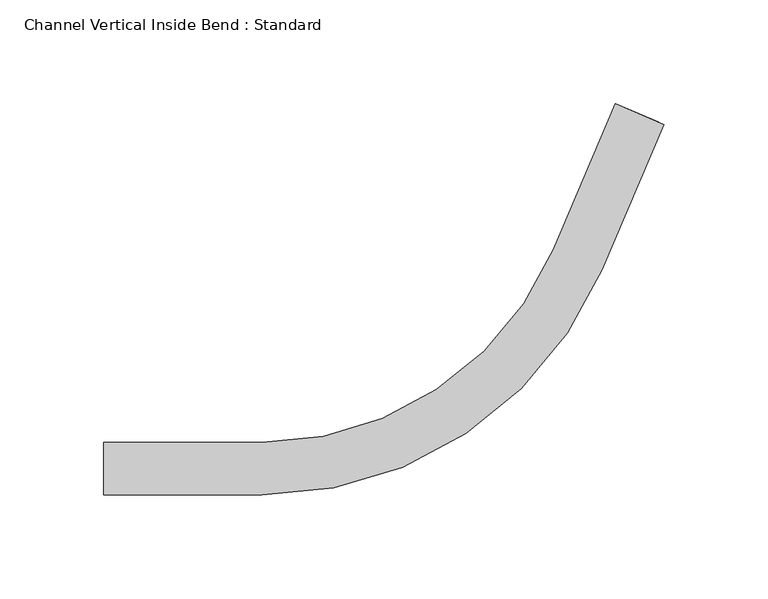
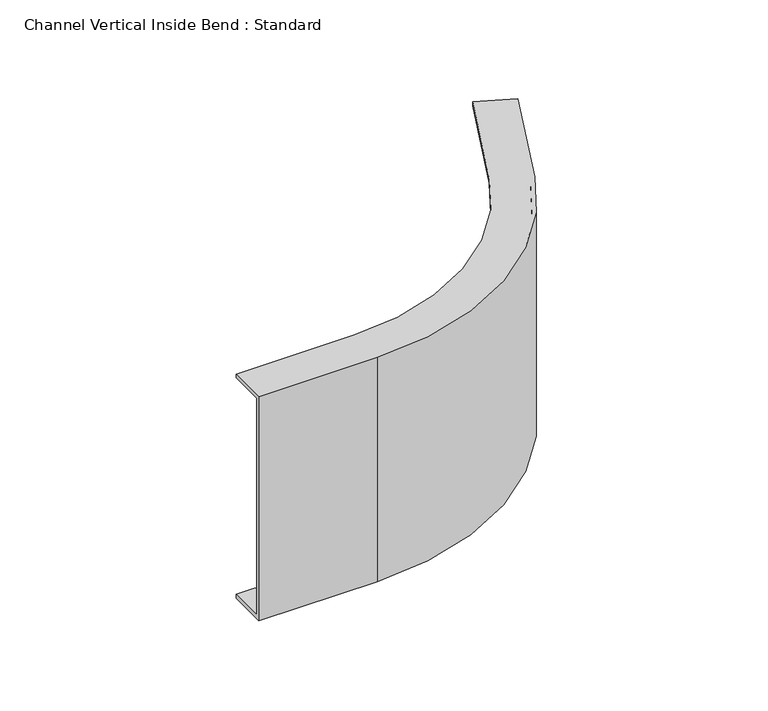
"""IFC4 building model written with IfcOpenShell, lengths in millimetres: cable carrier fitting geometry, Channel Vertical Inside Bend : Standard."""

from ifc_helpers import new_model, si_unit, frame, origin, place, context, project, spatial, polyline, circle_curve, source, transform, mapped, element, save
from ifc_brep_helpers import plane_surface, cylinder_surface, revolved_surface, advanced_brep


def channel_vertical_inside_bend_standard_6782b2f0(model_context):
    return source(origin(), model_context, "Body", "AdvancedBrep", [
        advanced_brep(
        [(-185.4773062, 12.7, 76.2), (-185.4773062, 12.7, 73.66), (-185.4773062, -10.16, 73.66), (-185.4773062, -10.16, -73.66), (-185.4773062, 12.7, -73.66), (-185.4773062, 12.7, -76.2), (-185.4773062, -12.7, -76.2), (-185.4773062, -12.7, 76.2), (60.7813455, 175.6950459, 76.2), (84.1621688, 165.7704752, 76.2), (84.1621688, 165.7704752, -76.2), (60.7813455, 175.6950459, -76.2), (60.7813455, 175.6950459, -73.66), (81.8240865, 166.7629323, -73.66), (81.8240865, 166.7629323, 73.66), (60.7813455, 175.6950459, 73.66), (-109.2773062, -12.7, 76.2), (54.3884568, 95.6280054, 76.2), (31.0076335, 105.552576, 76.2), (-109.2773062, 12.7, 76.2), (-109.2773062, -12.7, -76.2), (-109.2773062, 12.7, -76.2), (31.0076335, 105.552576, -76.2), (54.3884568, 95.6280054, -76.2), (-109.2773062, 12.7, -73.66), (-109.2773062, -10.16, -73.66), (52.0503745, 96.6204624, -73.66), (31.0076335, 105.552576, -73.66), (-109.2773062, -10.16, 73.66), (-109.2773062, 12.7, 73.66), (31.0076335, 105.552576, 73.66), (52.0503745, 96.6204624, 73.66)],
        [
            (0, 1),
            (1, 2),
            (2, 3),
            (3, 4),
            (4, 5),
            (5, 6),
            (6, 7),
            (7, 0),
            (8, 9),
            (9, 10),
            (10, 11),
            (11, 12),
            (12, 13),
            (13, 14),
            (14, 15),
            (15, 8),
            (7, 16),
            (16, 17, circle_curve(frame((-109.2773062, 165.1, 76.2), z_axis=(0.0, 0.0, 1.0), x_axis=(0.0, -1.0, 0.0)), 177.8)),
            (17, 9),
            (8, 18),
            (18, 19, circle_curve(frame((-109.2773062, 165.1, 76.2), z_axis=(0.0, 0.0, -1.0), x_axis=(0.0, -1.0, 0.0)), 152.4)),
            (19, 0),
            (6, 20),
            (20, 16),
            (5, 21),
            (21, 22, circle_curve(frame((-109.2773062, 165.1, -76.2), z_axis=(0.0, 0.0, 1.0), x_axis=(0.0, -1.0, 0.0)), 152.4)),
            (22, 11),
            (10, 23),
            (23, 20, circle_curve(frame((-109.2773062, 165.1, -76.2), z_axis=(0.0, 0.0, -1.0), x_axis=(0.0, -1.0, 0.0)), 177.8)),
            (4, 24),
            (24, 21),
            (3, 25),
            (25, 26, circle_curve(frame((-109.2773062, 165.1, -73.66), z_axis=(0.0, 0.0, 1.0), x_axis=(0.0, -1.0, 0.0)), 175.26)),
            (26, 13),
            (12, 27),
            (27, 24, circle_curve(frame((-109.2773062, 165.1, -73.66), z_axis=(0.0, 0.0, -1.0), x_axis=(0.0, -1.0, 0.0)), 152.4)),
            (2, 28),
            (28, 25),
            (1, 29),
            (29, 30, circle_curve(frame((-109.2773062, 165.1, 73.66), z_axis=(0.0, 0.0, 1.0), x_axis=(0.0, -1.0, 0.0)), 152.4)),
            (30, 15),
            (14, 31),
            (31, 28, circle_curve(frame((-109.2773062, 165.1, 73.66), z_axis=(0.0, 0.0, -1.0), x_axis=(0.0, -1.0, 0.0)), 175.26)),
            (19, 29),
            (23, 17),
            (27, 22),
            (31, 26),
            (18, 30),
        ],
        [
            plane_surface(frame((-185.4773062, 0.0, 0.0), z_axis=(-1.0, 0.0, 0.0), x_axis=(0.0, 0.0, 1.0))),
            plane_surface(frame((72.4717571, 170.7327605, 0.0), z_axis=(0.3907311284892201, 0.9205048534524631, 0.0), x_axis=(0.0, 0.0, 1.0))),
            plane_surface(frame((-185.4773062, -12.7, 76.2), z_axis=(0.0, 0.0, 1.0), x_axis=(1.0, 0.0, 0.0))),
            plane_surface(frame((-185.4773062, -12.7, -76.2), z_axis=(0.0, -1.0, 0.0), x_axis=(1.0, 0.0, 0.0))),
            plane_surface(frame((-185.4773062, 12.7, -76.2), z_axis=(0.0, 0.0, -1.0), x_axis=(1.0, 0.0, 0.0))),
            plane_surface(frame((-185.4773062, 12.7, -73.66), z_axis=(0.0, 1.0, 0.0), x_axis=(1.0, 0.0, 0.0))),
            plane_surface(frame((-185.4773062, -10.16, -73.66), z_axis=(0.0, 0.0, 1.0), x_axis=(1.0, 0.0, 0.0))),
            plane_surface(frame((-185.4773062, -10.16, 73.66), z_axis=(0.0, 1.0, 0.0), x_axis=(1.0, 0.0, 0.0))),
            plane_surface(frame((-185.4773062, 12.7, 73.66), z_axis=(0.0, 0.0, -1.0), x_axis=(1.0, 0.0, 0.0))),
            plane_surface(frame((-185.4773062, 12.7, 76.2), z_axis=(0.0, 1.0, 0.0), x_axis=(1.0, 0.0, 0.0))),
            cylinder_surface(frame((-109.2773062, 165.1, 0.0), z_axis=(0.0, 0.0, 1.0), x_axis=(0.0, -1.0, 0.0)), 177.8),
            revolved_surface(polyline([(-109.2773062, 12.699999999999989, -73.66), (-109.2773062, 12.699999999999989, -76.2)]), (-109.2773062, 165.1, 0.0), (0.0, 0.0, 1.0)),
            revolved_surface(polyline([(-109.2773062, -10.159999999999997, 73.66), (-109.2773062, -10.159999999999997, -73.66)]), (-109.2773062, 165.1, 0.0), (0.0, 0.0, 1.0)),
            revolved_surface(polyline([(-109.2773062, 12.699999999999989, 76.2), (-109.2773062, 12.699999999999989, 73.66)]), (-109.2773062, 165.1, 0.0), (0.0, 0.0, 1.0)),
            plane_surface(frame((54.3884568, 95.6280054, -76.2), z_axis=(0.9205048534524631, -0.3907311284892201, 0.0), x_axis=(0.3907311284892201, 0.9205048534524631, 0.0))),
            plane_surface(frame((31.0076335, 105.552576, -73.66), z_axis=(-0.9205048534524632, 0.39073112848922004, 0.0), x_axis=(0.39073112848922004, 0.9205048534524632, 0.0))),
            plane_surface(frame((52.0503745, 96.6204624, 73.66), z_axis=(-0.9205048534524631, 0.3907311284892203, 0.0), x_axis=(0.3907311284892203, 0.9205048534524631, 0.0))),
            plane_surface(frame((31.0076335, 105.552576, 76.2), z_axis=(-0.9205048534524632, 0.39073112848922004, 0.0), x_axis=(0.39073112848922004, 0.9205048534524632, 0.0))),
        ],
        [
            (0, [[1, 2, 3, 4, 5, 6, 7, 8]]),
            (1, [[9, 10, 11, 12, 13, 14, 15, 16]]),
            (2, [[-8, 17, 18, 19, -9, 20, 21, 22]]),
            (3, [[-7, 23, 24, -17]]),
            (4, [[-6, 25, 26, 27, -11, 28, 29, -23]]),
            (5, [[-5, 30, 31, -25]]),
            (6, [[-4, 32, 33, 34, -13, 35, 36, -30]]),
            (7, [[-3, 37, 38, -32]]),
            (8, [[-2, 39, 40, 41, -15, 42, 43, -37]]),
            (9, [[-1, -22, 44, -39]]),
            (10, [[-18, -24, -29, 45]]),
            (11, [[-26, -31, -36, 46]]),
            (12, [[-33, -38, -43, 47]]),
            (13, [[-40, -44, -21, 48]]),
            (14, [[-45, -28, -10, -19]]),
            (15, [[-46, -35, -12, -27]]),
            (16, [[-47, -42, -14, -34]]),
            (17, [[-48, -20, -16, -41]]),
        ],
    ),
    ])


if __name__ == "__main__":
    model = new_model("IFC4")
    model_context = context("Model", 3, world=origin())
    ifc_project = project(units=[si_unit("LENGTHUNIT", "METRE", prefix="MILLI")], contexts=[model_context])
    site = spatial("IfcSite", under=ifc_project)
    building = spatial("IfcBuilding", under=site)
    placement = place(None, origin())
    channel_vertical_inside_bend_standard_shape = channel_vertical_inside_bend_standard_6782b2f0(model_context)
    element("IfcCableCarrierFitting", 1, ObjectType="Channel Vertical Inside Bend : Standard", at=placement, inside=building, context=model_context, shape_type="MappedRepresentation", body=[
        mapped(channel_vertical_inside_bend_standard_shape, transform((0.0, 0.0, 0.0), x_axis=(1.0, 0.0, 0.0), y_axis=(0.0, 1.0, 0.0), z_axis=(0.0, 0.0, 1.0))),
    ])
    save(model, "model.ifc")
